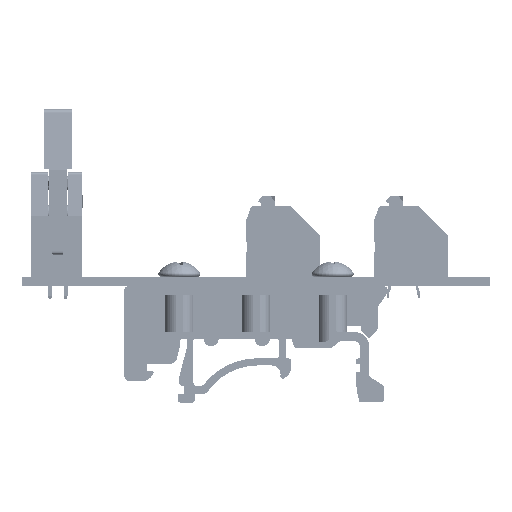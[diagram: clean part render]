
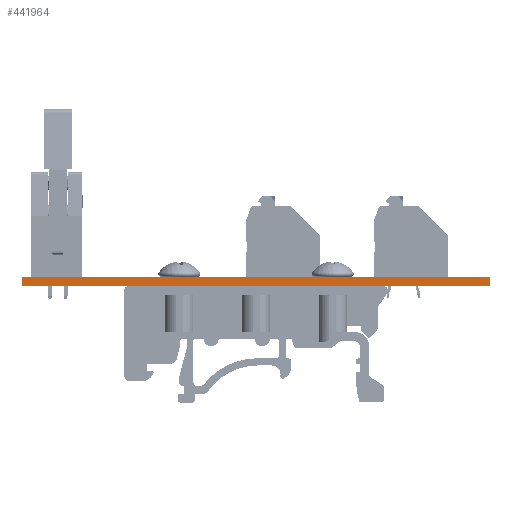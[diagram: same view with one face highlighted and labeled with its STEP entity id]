
A CAD part, front view. The second image highlights one B-rep face of the part: STEP entity #441964.
In plain terms, the highlighted planar face has unit normal (0, -1, 0).
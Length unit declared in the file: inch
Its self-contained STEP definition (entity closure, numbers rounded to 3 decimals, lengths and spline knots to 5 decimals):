
#7705 = CARTESIAN_POINT ( 'NONE',  ( 22.07, 2.87501, 0. ) ) ;
#23777 = EDGE_LOOP ( 'NONE', ( #254298, #329609, #380979, #388319 ) ) ;
#36888 = CARTESIAN_POINT ( 'NONE',  ( 0., 2.87501, 0. ) ) ;
#39840 = DIRECTION ( 'NONE',  ( 1., 0., 0. ) ) ;
#69245 = VECTOR ( 'NONE', #380931, 39.37008 ) ;
#83782 = FACE_OUTER_BOUND ( 'NONE', #23777, .T. ) ;
#92972 = CARTESIAN_POINT ( 'NONE',  ( 22.07, 2.87501, 0.0625 ) ) ;
#106193 = DIRECTION ( 'NONE',  ( 0., 1., 0. ) ) ;
#127866 = EDGE_CURVE ( 'NONE', #347103, #294797, #359699, .T. ) ;
#138815 = CARTESIAN_POINT ( 'NONE',  ( 0., 2.87501, 0.0625 ) ) ;
#142218 = PLANE ( 'NONE',  #208542 ) ;
#171490 = VECTOR ( 'NONE', #39840, 39.37008 ) ;
#189650 = EDGE_CURVE ( 'NONE', #294797, #433224, #365734, .T. ) ;
#197224 = CARTESIAN_POINT ( 'NONE',  ( 22.07, 2.87501, 0.0625 ) ) ;
#199007 = CARTESIAN_POINT ( 'NONE',  ( 19.07, 2.87501, 0. ) ) ;
#202618 = EDGE_CURVE ( 'NONE', #347103, #327174, #403194, .T. ) ;
#208542 = AXIS2_PLACEMENT_3D ( 'NONE', #419029, #106193, #315405 ) ;
#209562 = DIRECTION ( 'NONE',  ( 1., 0., 0. ) ) ;
#244053 = CARTESIAN_POINT ( 'NONE',  ( 19.07, 2.87501, 0.0625 ) ) ;
#254298 = ORIENTED_EDGE ( 'NONE', *, *, #425912, .T. ) ;
#294797 = VERTEX_POINT ( 'NONE', #92972 ) ;
#315405 = DIRECTION ( 'NONE',  ( 0., 0., 1. ) ) ;
#327174 = VERTEX_POINT ( 'NONE', #199007 ) ;
#328126 = VECTOR ( 'NONE', #377141, 39.37008 ) ;
#329609 = ORIENTED_EDGE ( 'NONE', *, *, #189650, .F. ) ;
#338610 = LINE ( 'NONE', #36888, #171490 ) ;
#347103 = VERTEX_POINT ( 'NONE', #365867 ) ;
#359699 = LINE ( 'NONE', #138815, #418810 ) ;
#365734 = LINE ( 'NONE', #197224, #328126 ) ;
#365867 = CARTESIAN_POINT ( 'NONE',  ( 19.07, 2.87501, 0.0625 ) ) ;
#377141 = DIRECTION ( 'NONE',  ( 0., 0., -1. ) ) ;
#380931 = DIRECTION ( 'NONE',  ( 0., 0., -1. ) ) ;
#380979 = ORIENTED_EDGE ( 'NONE', *, *, #127866, .F. ) ;
#388319 = ORIENTED_EDGE ( 'NONE', *, *, #202618, .T. ) ;
#403194 = LINE ( 'NONE', #244053, #69245 ) ;
#418810 = VECTOR ( 'NONE', #209562, 39.37008 ) ;
#419029 = CARTESIAN_POINT ( 'NONE',  ( 0., 2.87501, 0.0625 ) ) ;
#425912 = EDGE_CURVE ( 'NONE', #327174, #433224, #338610, .T. ) ;
#433224 = VERTEX_POINT ( 'NONE', #7705 ) ;
#441964 = ADVANCED_FACE ( 'NONE', ( #83782 ), #142218, .F. ) ;
